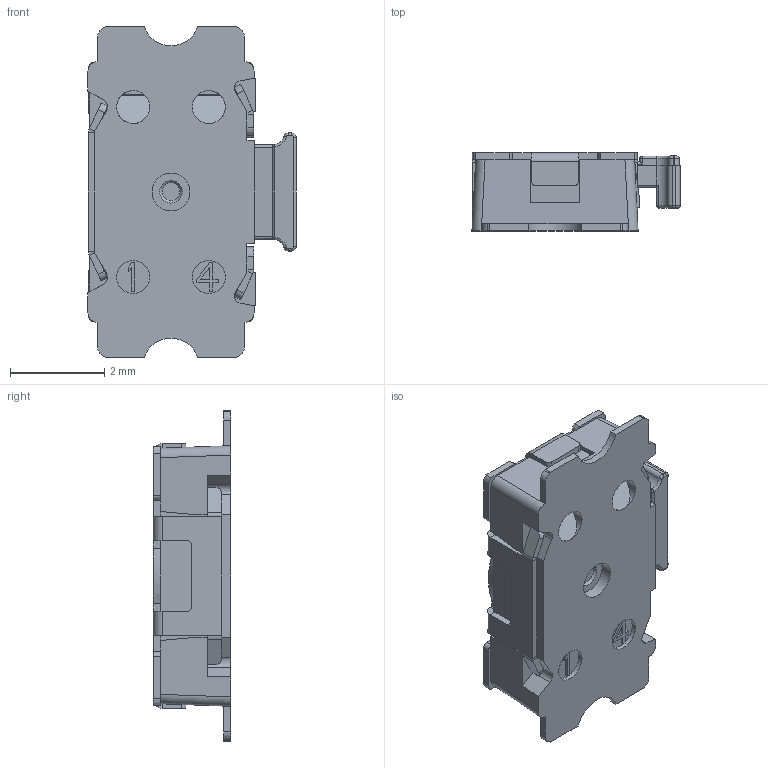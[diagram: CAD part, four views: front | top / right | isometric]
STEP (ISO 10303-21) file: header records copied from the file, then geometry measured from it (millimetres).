
FILE_DESCRIPTION((''),'2;1');
FILE_NAME('CU39M2GA01FP_SW0001','2016-02-19T',('lb9412d'),(''),'PRO/ENGINEER BY PARAMETRIC TECHNOLOGY CORPORATION, 2013320','PRO/ENGINEER BY PARAMETRIC TECHNOLOGY CORPORATION, 2013320','');
FILE_SCHEMA(('CONFIG_CONTROL_DESIGN'));
Length unit declared in the file: millimetre
Products named in the file (1): CU39M2GA01FP_SW0001
Bounding box: 4.41 x 1.65 x 7 mm (x, y, z)
Volume: 32.3 mm3; surface area: 98 mm2
Topology: 1 solids, 1 shells, 363 faces, 952 edges, 599 vertices
Faces by surface type: plane 240, cylinder 103, torus 7, bspline 7, sphere 4, cone 2
Entity records: 11252 total; most frequent: CARTESIAN_POINT 2167, ORIENTED_EDGE 1904, DIRECTION 1877, EDGE_CURVE 952, VECTOR 703, LINE 703, VERTEX_POINT 599, AXIS2_PLACEMENT_3D 587
